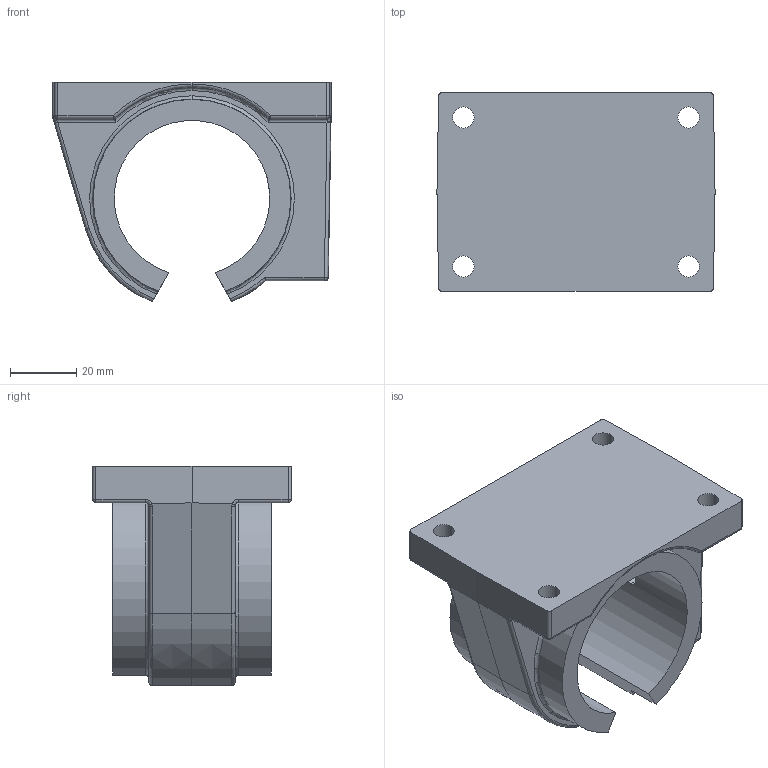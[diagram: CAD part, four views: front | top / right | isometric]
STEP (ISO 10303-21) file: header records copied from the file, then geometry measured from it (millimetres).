
FILE_DESCRIPTION (( 'STEP AP203' ), '1' );
FILE_NAME ('KGGO67-30.step', '2020-03-10T16:06:50', ( '' ), ( '' ), 'SwSTEP 2.0', 'SolidWorks 2019', '' );
FILE_SCHEMA (( 'CONFIG_CONTROL_DESIGN' ));
Length unit declared in the file: millimetre
Products named in the file (2): KGGO67-30
Bounding box: 83.98 x 60 x 66.26 mm (x, y, z)
Volume: 116427 mm3; surface area: 30399.4 mm2
Topology: 1 solids, 1 shells, 125 faces, 298 edges, 173 vertices
Faces by surface type: cylinder 52, plane 28, torus 16, bspline 12, sphere 10, cone 7
Entity records: 4160 total; most frequent: CARTESIAN_POINT 1223, DIRECTION 594, ORIENTED_EDGE 584, EDGE_CURVE 292, AXIS2_PLACEMENT_3D 244, VERTEX_POINT 173, EDGE_LOOP 139, CIRCLE 129
